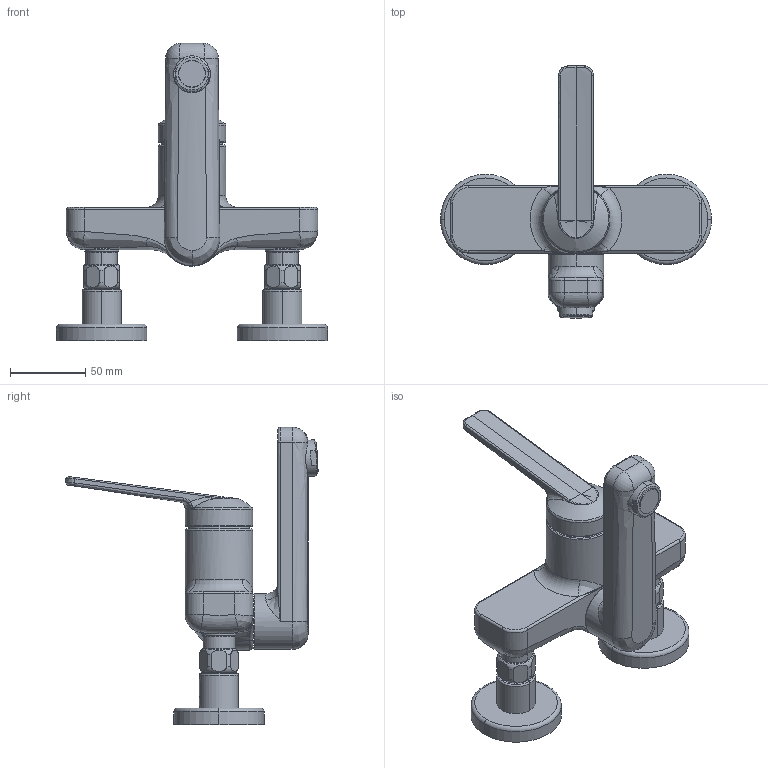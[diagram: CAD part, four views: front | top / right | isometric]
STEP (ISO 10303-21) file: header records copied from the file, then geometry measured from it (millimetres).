
FILE_DESCRIPTION((''),'2;1');
FILE_NAME('11662012','2019-03-05T',('TS966'),(''),'CREO PARAMETRIC BY PTC INC, 2016260','CREO PARAMETRIC BY PTC INC, 2016260','');
FILE_SCHEMA(('CONFIG_CONTROL_DESIGN'));
Length unit declared in the file: millimetre
Products named in the file (1): 11662012
Bounding box: 180 x 167.43 x 197.5 mm (x, y, z)
Volume: 535175.4 mm3; surface area: 76656.4 mm2
Topology: 2 solids, 2 shells, 278 faces, 635 edges, 377 vertices
Faces by surface type: bspline 85, cylinder 70, plane 56, torus 53, sphere 8, cone 6
Entity records: 15757 total; most frequent: CARTESIAN_POINT 10045, ORIENTED_EDGE 1266, DIRECTION 1087, EDGE_CURVE 633, AXIS2_PLACEMENT_3D 489, VERTEX_POINT 377, EDGE_LOOP 296, CIRCLE 296
